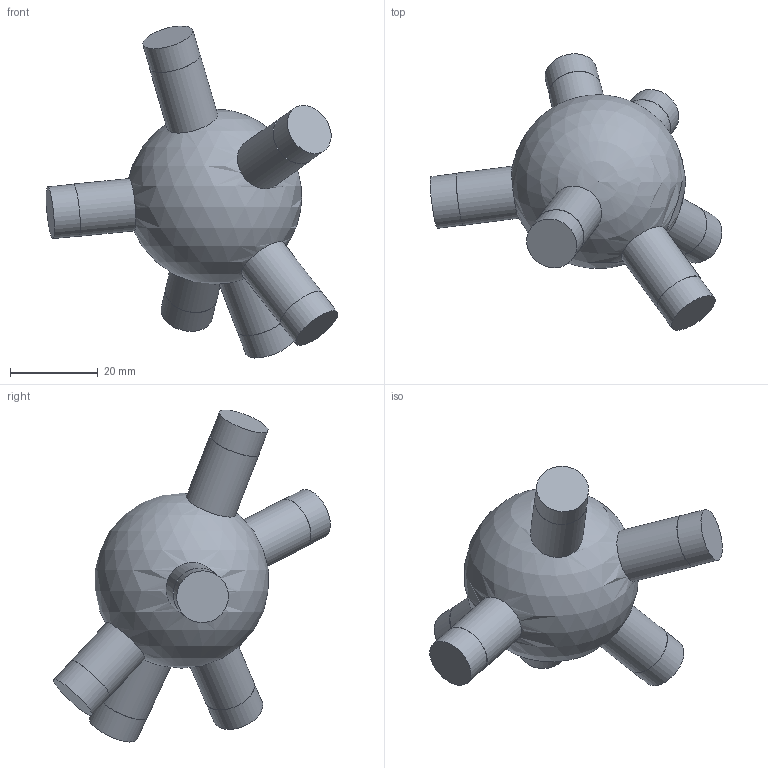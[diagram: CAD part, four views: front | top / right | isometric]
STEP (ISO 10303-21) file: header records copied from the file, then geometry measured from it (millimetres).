
FILE_DESCRIPTION(('Open CASCADE Model'),'2;1');
FILE_NAME('Open CASCADE Shape Model','2026-10-21T12:47:57',('Author'),( 'Open CASCADE'),'Open CASCADE STEP processor 7.9','Open CASCADE 7.9' ,'Unknown');
FILE_SCHEMA(('AUTOMOTIVE_DESIGN { 1 0 10303 214 1 1 1 1 }'));
Length unit declared in the file: millimetre
Products named in the file (1): Open CASCADE STEP translator 7.9 111
Bounding box: 66.69 x 63.25 x 75.89 mm (x, y, z)
Volume: 46785.9 mm3; surface area: 9550.1 mm2
Topology: 1 solids, 1 shells, 25 faces, 43 edges, 29 vertices
Faces by surface type: cylinder 12, plane 12, sphere 1
Full cylindrical faces by diameter (mm): 11.9 x6, 12 x6
Entity records: 1733 total; most frequent: CARTESIAN_POINT 807, DIRECTION 188, ORIENTED_EDGE 80, PCURVE 80, DEFINITIONAL_REPRESENTATION 80, LINE 62, VECTOR 62, AXIS2_PLACEMENT_3D 54
